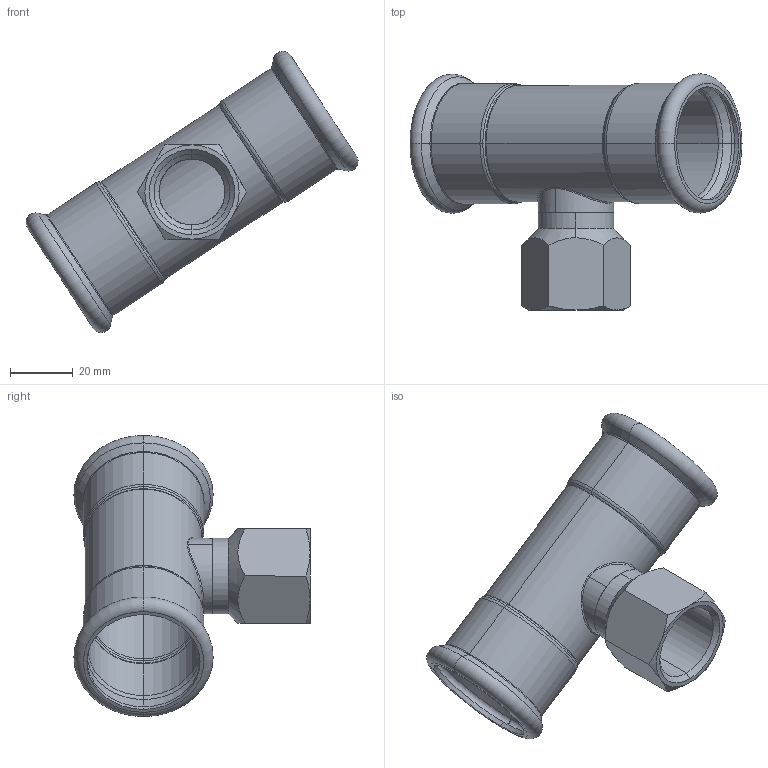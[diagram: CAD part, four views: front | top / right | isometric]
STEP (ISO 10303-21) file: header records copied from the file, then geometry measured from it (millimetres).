
FILE_DESCRIPTION (( 'STEP AP203' ), '1' );
FILE_NAME ('GDA5250.STEP', '2019-01-14T01:04:31', ( '' ), ( '' ), 'SwSTEP 2.0', 'SolidWorks 2015', '' );
FILE_SCHEMA (( 'CONFIG_CONTROL_DESIGN' ));
Length unit declared in the file: millimetre
Products named in the file (3): GDA5250; ITC-I-03-22℅?; T(R)-¢ñ-35¡Á22''
Assembly tree (2 placements, depth 2):
  GDA5250
    ITC-I-03-22℅?
    T(R)-¢ñ-35¡Á22''
Bounding box: 105.63 x 75.15 x 89.48 mm (x, y, z)
Volume: 27000.4 mm3; surface area: 30738.3 mm2
Topology: 2 solids, 2 shells, 103 faces, 218 edges, 122 vertices
Faces by surface type: torus 32, cone 28, cylinder 26, plane 13, bspline 4
Entity records: 4184 total; most frequent: CARTESIAN_POINT 1651, DIRECTION 526, ORIENTED_EDGE 436, AXIS2_PLACEMENT_3D 236, EDGE_CURVE 218, CIRCLE 132, VERTEX_POINT 122, EDGE_LOOP 112
